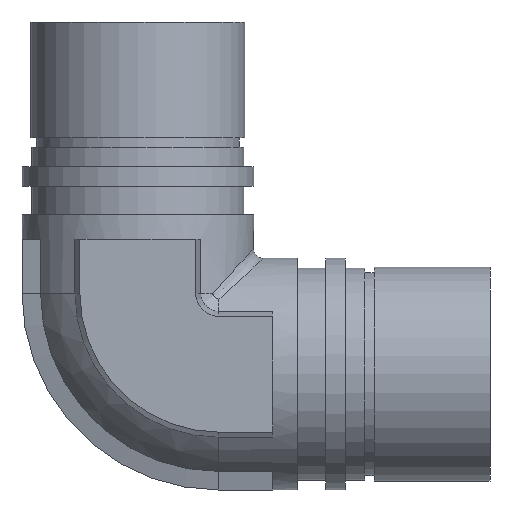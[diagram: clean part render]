
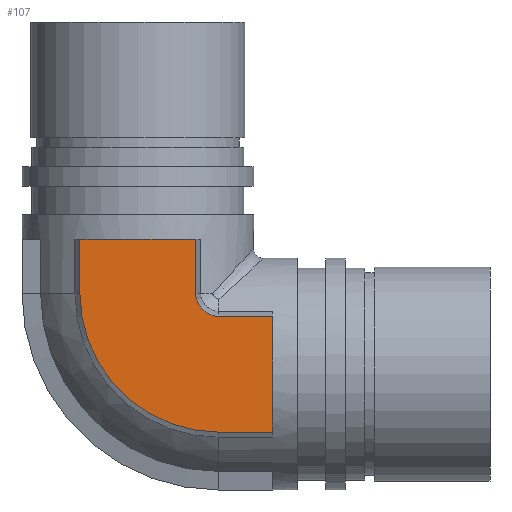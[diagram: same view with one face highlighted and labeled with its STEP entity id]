
A CAD part, front view. The second image highlights one B-rep face of the part: STEP entity #107.
In plain terms, the highlighted planar face has unit normal (0, -1, 0).
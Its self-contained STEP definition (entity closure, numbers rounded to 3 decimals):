
#107 = ADVANCED_FACE( '', ( #216 ), #217, .F. );
#216 = FACE_OUTER_BOUND( '', #681, .T. );
#217 = PLANE( '', #682 );
#681 = EDGE_LOOP( '', ( #1011, #1012, #1013, #1014, #1015, #1016, #1017, #1018, #1019, #1020 ) );
#682 = AXIS2_PLACEMENT_3D( '', #1021, #1022, #1023 );
#1011 = ORIENTED_EDGE( '', *, *, #1336, .T. );
#1012 = ORIENTED_EDGE( '', *, *, #1337, .T. );
#1013 = ORIENTED_EDGE( '', *, *, #1335, .F. );
#1014 = ORIENTED_EDGE( '', *, *, #1281, .F. );
#1015 = ORIENTED_EDGE( '', *, *, #1260, .T. );
#1016 = ORIENTED_EDGE( '', *, *, #1338, .T. );
#1017 = ORIENTED_EDGE( '', *, *, #1314, .T. );
#1018 = ORIENTED_EDGE( '', *, *, #1326, .F. );
#1019 = ORIENTED_EDGE( '', *, *, #1307, .T. );
#1020 = ORIENTED_EDGE( '', *, *, #1339, .T. );
#1021 = CARTESIAN_POINT( '', ( 6., -12., 8.4 ) );
#1022 = DIRECTION( '', ( 0., 1., 0. ) );
#1023 = DIRECTION( '', ( 0., 0., 1. ) );
#1260 = EDGE_CURVE( '', #1410, #1408, #1411, .T. );
#1281 = EDGE_CURVE( '', #1410, #1449, #1450, .T. );
#1307 = EDGE_CURVE( '', #1485, #1486, #1487, .T. );
#1314 = EDGE_CURVE( '', #1424, #1496, #1497, .T. );
#1326 = EDGE_CURVE( '', #1485, #1496, #1514, .T. );
#1335 = EDGE_CURVE( '', #1449, #1525, #1527, .T. );
#1336 = EDGE_CURVE( '', #1528, #1398, #1529, .T. );
#1337 = EDGE_CURVE( '', #1398, #1525, #1530, .T. );
#1338 = EDGE_CURVE( '', #1408, #1424, #1531, .T. );
#1339 = EDGE_CURVE( '', #1486, #1528, #1532, .T. );
#1398 = VERTEX_POINT( '', #1619 );
#1408 = VERTEX_POINT( '', #1630 );
#1410 = VERTEX_POINT( '', #1633 );
#1411 = LINE( '', #1634, #1635 );
#1424 = VERTEX_POINT( '', #1651 );
#1449 = VERTEX_POINT( '', #1680 );
#1450 = CIRCLE( '', #1681, 14.4 );
#1485 = VERTEX_POINT( '', #1804 );
#1486 = VERTEX_POINT( '', #1805 );
#1487 = CIRCLE( '', #1806, 2.4 );
#1496 = VERTEX_POINT( '', #1821 );
#1497 = LINE( '', #1822, #1823 );
#1514 = LINE( '', #1849, #1850 );
#1525 = VERTEX_POINT( '', #1867 );
#1527 = LINE( '', #1870, #1871 );
#1528 = VERTEX_POINT( '', #1872 );
#1529 = LINE( '', #1873, #1874 );
#1530 = LINE( '', #1875, #1876 );
#1531 = LINE( '', #1877, #1878 );
#1532 = LINE( '', #1879, #1880 );
#1619 = CARTESIAN_POINT( '', ( 0., -12., 14. ) );
#1630 = CARTESIAN_POINT( '', ( 14., -12., -6. ) );
#1633 = CARTESIAN_POINT( '', ( 8.4, -12., -6. ) );
#1634 = CARTESIAN_POINT( '', ( 8.4, -12., -6. ) );
#1635 = VECTOR( '', #1983, 1000. );
#1651 = CARTESIAN_POINT( '', ( 14., -12., 0. ) );
#1680 = CARTESIAN_POINT( '', ( -6., -12., 8.4 ) );
#1681 = AXIS2_PLACEMENT_3D( '', #2030, #2031, #2032 );
#1804 = CARTESIAN_POINT( '', ( 8.4, -12., 6. ) );
#1805 = CARTESIAN_POINT( '', ( 6., -12., 8.4 ) );
#1806 = AXIS2_PLACEMENT_3D( '', #2072, #2073, #2074 );
#1821 = CARTESIAN_POINT( '', ( 14., -12., 6. ) );
#1822 = CARTESIAN_POINT( '', ( 14., -12., 6. ) );
#1823 = VECTOR( '', #2081, 1000. );
#1849 = CARTESIAN_POINT( '', ( 8.4, -12., 6. ) );
#1850 = VECTOR( '', #2097, 1000. );
#1867 = CARTESIAN_POINT( '', ( -6., -12., 14. ) );
#1870 = CARTESIAN_POINT( '', ( -6., -12., 8.4 ) );
#1871 = VECTOR( '', #2108, 1000. );
#1872 = CARTESIAN_POINT( '', ( 6., -12., 14. ) );
#1873 = CARTESIAN_POINT( '', ( 6., -12., 14. ) );
#1874 = VECTOR( '', #2109, 1000. );
#1875 = CARTESIAN_POINT( '', ( 6., -12., 14. ) );
#1876 = VECTOR( '', #2110, 1000. );
#1877 = CARTESIAN_POINT( '', ( 14., -12., 6. ) );
#1878 = VECTOR( '', #2111, 1000. );
#1879 = CARTESIAN_POINT( '', ( 6., -12., 8.4 ) );
#1880 = VECTOR( '', #2112, 1000. );
#1983 = DIRECTION( '', ( 1., 0., 0. ) );
#2030 = CARTESIAN_POINT( '', ( 8.4, -12., 8.4 ) );
#2031 = DIRECTION( '', ( 0., 1., 0. ) );
#2032 = DIRECTION( '', ( 0., 0., 1. ) );
#2072 = CARTESIAN_POINT( '', ( 8.4, -12., 8.4 ) );
#2073 = DIRECTION( '', ( 0., 1., 0. ) );
#2074 = DIRECTION( '', ( 0., 0., 1. ) );
#2081 = DIRECTION( '', ( 0., 0., 1. ) );
#2097 = DIRECTION( '', ( 1., 0., 0. ) );
#2108 = DIRECTION( '', ( 0., 0., 1. ) );
#2109 = DIRECTION( '', ( -1., 0., 0. ) );
#2110 = DIRECTION( '', ( -1., 0., 0. ) );
#2111 = DIRECTION( '', ( 0., 0., 1. ) );
#2112 = DIRECTION( '', ( 0., 0., 1. ) );
